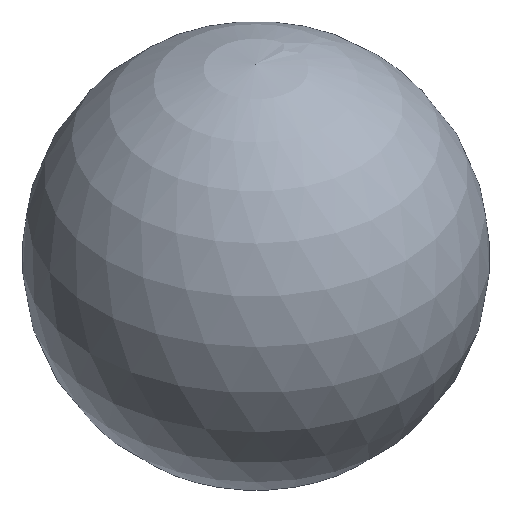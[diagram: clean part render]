
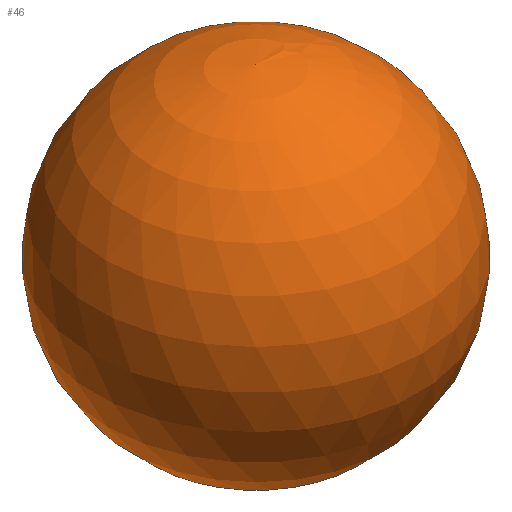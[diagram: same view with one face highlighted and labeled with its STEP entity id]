
A CAD part, isometric view. The second image highlights one B-rep face of the part: STEP entity #46.
In plain terms, the highlighted spherical face has radius 12.5 mm.
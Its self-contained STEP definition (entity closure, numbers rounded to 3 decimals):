
#20=CARTESIAN_POINT('',(0.,0.,9.9));
#21=DIRECTION('',(1.,0.,0.));
#22=DIRECTION('',(0.,0.,1.));
#23=AXIS2_PLACEMENT_3D('',#20,#22,#21);
#24=SPHERICAL_SURFACE('',#23,12.5);
#25=CARTESIAN_POINT('',(7.632,0.,0.));
#26=VERTEX_POINT('',#25);
#27=CARTESIAN_POINT('',(0.,0.,22.4));
#28=VERTEX_POINT('',#27);
#29=CARTESIAN_POINT('',(0.,0.,9.9));
#30=DIRECTION('',(0.611,0.,-0.792));
#31=DIRECTION('',(0.,-1.,0.));
#32=AXIS2_PLACEMENT_3D('',#29,#31,#30);
#33=CIRCLE('',#32,12.5);
#34=EDGE_CURVE('',#26,#28,#33,.T.);
#35=ORIENTED_EDGE('E1',*,*,#34,.T.);
#36=ORIENTED_EDGE('E2',*,*,#34,.F.);
#37=CARTESIAN_POINT('',(0.,0.,0.));
#38=DIRECTION('',(1.,0.,-0.));
#39=DIRECTION('',(0.,0.,1.));
#40=AXIS2_PLACEMENT_3D('',#37,#39,#38);
#41=CIRCLE('',#40,7.632);
#42=EDGE_CURVE('',#26,#26,#41,.T.);
#43=ORIENTED_EDGE('E3',*,*,#42,.F.);
#44=EDGE_LOOP('',(#35,#36,#43));
#45=FACE_OUTER_BOUND('',#44,.F.);
#46=ADVANCED_FACE('F1',(#45),#24,.T.);
